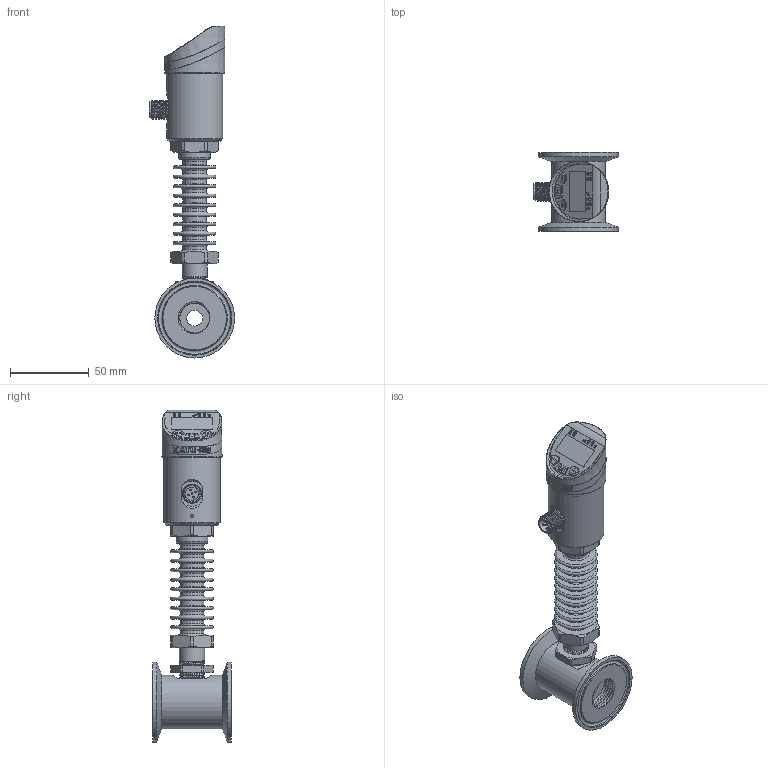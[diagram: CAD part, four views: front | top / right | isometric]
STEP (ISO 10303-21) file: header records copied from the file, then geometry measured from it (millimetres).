
FILE_DESCRIPTION( (''), '2;1');
FILE_NAME( 'QTKE_DN10_tri-clamp_high-temp.step', '2024-10-14T16:35:17+08:00', (''), (''), '', '', '');
FILE_SCHEMA (('AUTOMOTIVE_DESIGN { 1 0 10303 214 3 1 1 1 }'));
Products named in the file (1): QTKE DN10_tri-clamp_high-temp
Bounding box: 53.91 x 50 x 210.25 mm (x, y, z)
Volume: 86075.2 mm3; surface area: 58900 mm2
Topology: 5 solids, 5 shells, 1004 faces, 2559 edges, 1659 vertices
Faces by surface type: plane 405, cylinder 174, extrusion 160, cone 115, torus 66, bspline 63, sphere 21
Full cylindrical faces by diameter (mm): 1.689 x1, 2 x1, 2.7 x6, 3.5 x5, 10 x1, 12 x1, 13 x1, 15 x10, 15.9 x1, 17 x1, 20 x1, 21 x2, 23 x3, 26 x5, 31.7 x1, 32 x1, 34 x2, 34.2 x1, 35.5 x2, 50.5 x2
Entity records: 46875 total; most frequent: CARTESIAN_POINT 19908, ORIENTED_EDGE 4712, DIRECTION 4128, EDGE_CURVE 2356, VERTEX_POINT 1601, AXIS2_PLACEMENT_3D 1483, EDGE_LOOP 1253, VECTOR 1162
